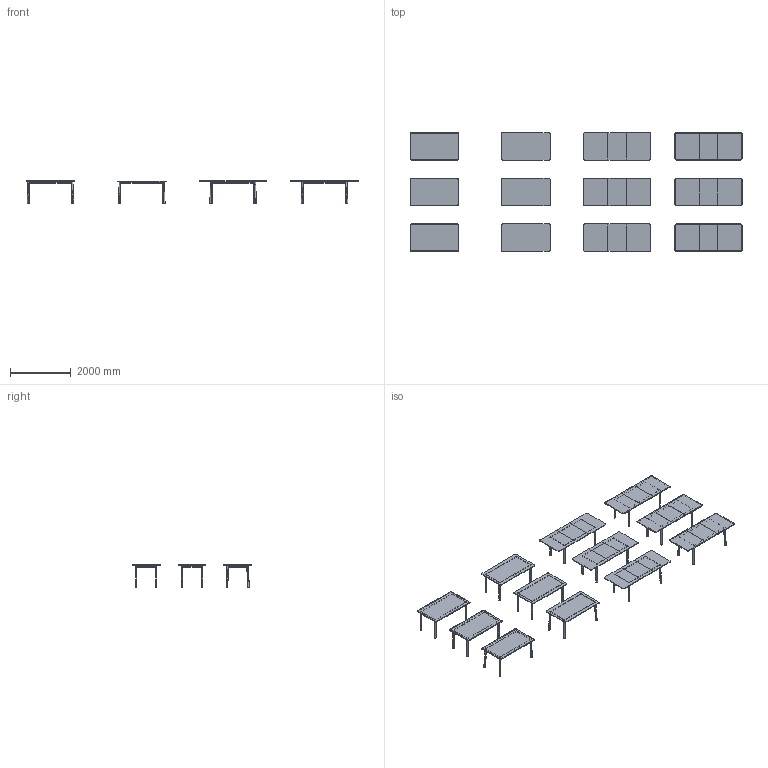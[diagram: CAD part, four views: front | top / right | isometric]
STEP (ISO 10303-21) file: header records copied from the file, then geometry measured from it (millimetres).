
FILE_DESCRIPTION(/* description */ (''),/* implementation_level */ '2;1');
FILE_NAME(/* name */ 'N8_160IZ_',/* time_stamp */ '2025-10-20T18:07:36+02:00',/* author */ (''),/* organization */ (''),/* preprocessor_version */ 'ST-DEVELOPER v16.5',/* originating_system */ 'Rhino 7.38',/* authorisation */ '');
FILE_SCHEMA (('AUTOMOTIVE_DESIGN_CC2'));
Products named in the file (1): Document
Bounding box: 10900 x 3900 x 736.03 mm (x, y, z)
Volume: 604495043.5 mm3; surface area: 56158490 mm2
Topology: 168 solids, 168 shells, 2274 faces, 5643 edges, 3681 vertices
Faces by surface type: bspline 2274
Entity records: 161393 total; most frequent: CARTESIAN_POINT 85326, B_SPLINE_CURVE_WITH_KNOTS 13335, ORIENTED_EDGE 10692, PCURVE 10692, DEFINITIONAL_REPRESENTATION 10692, SURFACE_CURVE 5346, EDGE_CURVE 5346, VERTEX_POINT 3408
